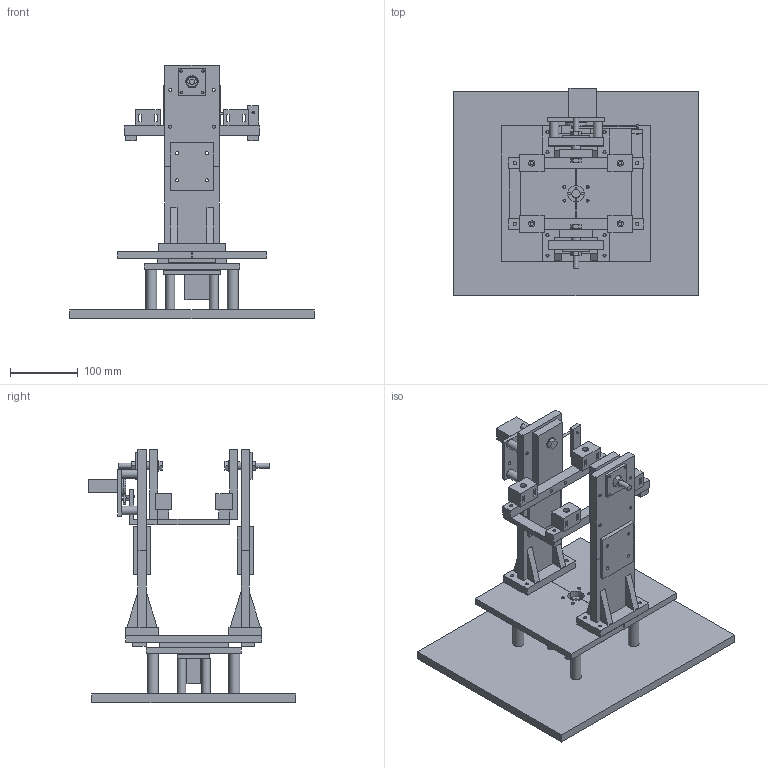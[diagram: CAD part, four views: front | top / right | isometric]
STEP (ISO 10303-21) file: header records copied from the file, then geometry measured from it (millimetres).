
FILE_DESCRIPTION(('Open CASCADE Model'),'2;1');
FILE_NAME('Open CASCADE Shape Model','2026-10-26T17:58:53',('Author'),( 'Open CASCADE'),'Open CASCADE STEP processor 7.9','Open CASCADE 7.9' ,'Unknown');
FILE_SCHEMA(('AUTOMOTIVE_DESIGN { 1 0 10303 214 1 1 1 1 }'));
Length unit declared in the file: millimetre
Products named in the file (67): Clickshot_prototype_fit_draft; yaw_deck_left; yaw_deck_right; deck_joiner_0; deck_joiner_1; bearing_platform; yaw_post_0; yaw_post_1; yaw_post_2; yaw_post_3; yaw_horn_adapter; servo_carrier_yaw; yaw_servo_post_0; yaw_servo_post_1; yaw_servo_post_2; yaw_servo_post_3; pitch_servo_carrier_pitch; pitch_servo_post_0; pitch_servo_post_1; pitch_servo_post_2; pitch_servo_post_3; lower_cheek_-1; upper_cheek_-1; cheek_splice_-1_-1; cheek_splice_-1_1; bearing_retainer_-1; cradle_rail_-1; cradle_pivot_ear_-1; saddle_block_-1_0; saddle_block_-1_1; 608_bearing_-1; pivot_spacer_-1; M8_pivot_reference_-1; M8_washer_inner_-1; M8_washer_outer_-1; M8_head_-1; M8_nut_-1; lower_cheek_1; upper_cheek_1; cheek_splice_1_-1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
Assembly tree (66 placements, depth 2):
  Clickshot_prototype_fit_draft
    yaw_deck_left
    yaw_deck_right
    deck_joiner_0
    deck_joiner_1
    bearing_platform
    yaw_post_0
    yaw_post_1
    yaw_post_2
    yaw_post_3
    yaw_horn_adapter
    servo_carrier_yaw
    yaw_servo_post_0
    yaw_servo_post_1
    yaw_servo_post_2
    yaw_servo_post_3
    pitch_servo_carrier_pitch
    pitch_servo_post_0
    pitch_servo_post_1
    pitch_servo_post_2
    pitch_servo_post_3
    lower_cheek_-1
    upper_cheek_-1
    cheek_splice_-1_-1
    cheek_splice_-1_1
    bearing_retainer_-1
    cradle_rail_-1
    cradle_pivot_ear_-1
    saddle_block_-1_0
    saddle_block_-1_1
    608_bearing_-1
    pivot_spacer_-1
    M8_pivot_reference_-1
    M8_washer_inner_-1
    M8_washer_outer_-1
    M8_head_-1
    M8_nut_-1
    lower_cheek_1
    upper_cheek_1
    cheek_splice_1_-1
    cheek_splice_1_1
    bearing_retainer_1
    cradle_rail_1
    cradle_pivot_ear_1
    saddle_block_1_0
    saddle_block_1_1
    608_bearing_1
    pivot_spacer_1
    M8_pivot_reference_1
    M8_washer_inner_1
    M8_washer_outer_1
    M8_head_1
    M8_nut_1
    rear_crossmember
    front_drive_crossmember
    pitch_crank_adapter
    pushrod_reference
    servo_joint_pin
    cradle_joint_pin
    yaw_servo_envelope
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Bounding box: 360 x 304.9 x 372.64 mm (x, y, z)
Volume: 3318123.1 mm3; surface area: 785638.3 mm2
Topology: 66 solids, 66 shells, 634 faces, 1482 edges, 988 vertices
Faces by surface type: plane 403, cylinder 231
Full cylindrical faces by diameter (mm): 3 x3, 3.4 x18, 4.5 x118, 7 x2, 8 x6, 8.2 x2, 8.6 x6, 9 x4, 12 x4, 13 x10, 16 x8, 18 x2, 22 x2, 22.2 x2, 32 x2, 50 x1, 53.975 x2
Entity records: 39991 total; most frequent: CARTESIAN_POINT 6579, DIRECTION 6236, LINE 3522, VECTOR 3522, ORIENTED_EDGE 2964, PCURVE 2964, DEFINITIONAL_REPRESENTATION 2964, EDGE_CURVE 1482
